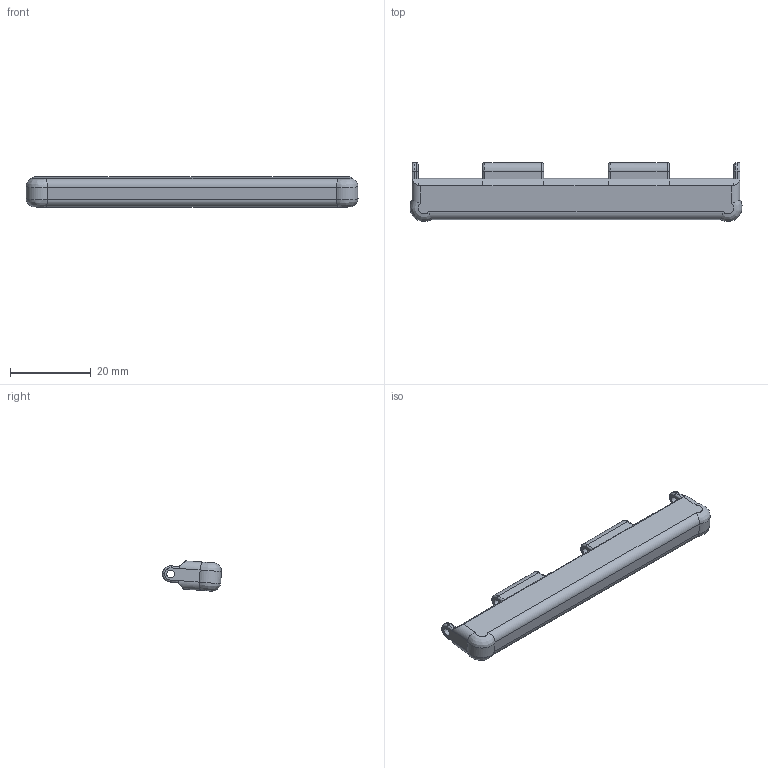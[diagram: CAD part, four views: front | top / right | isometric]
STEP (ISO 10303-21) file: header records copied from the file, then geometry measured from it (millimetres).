
FILE_DESCRIPTION(/* description */ (''),/* implementation_level */ '2;1');
FILE_NAME(/* name */ 'LeftMagneticBack.step',/* time_stamp */ '2026-09-30T10:56:25+13:00',/* author */ (''),/* organization */ (''),/* preprocessor_version */ 'ST-DEVELOPER v20.2',/* originating_system */ 'Autodesk Translation Framework v15.15.0.0',/* authorisation */ '');
FILE_SCHEMA (('AUTOMOTIVE_DESIGN { 1 0 10303 214 3 1 1 }'));
Length unit declared in the file: millimetre
Products named in the file (3): 2026-08-23-14-38-27-662; 2026-09-05-13-34-59-849; 2026-09-08-12-17-05-654
Assembly tree (2 placements, depth 3):
  2026-08-23-14-38-27-662
    2026-09-05-13-34-59-849
      2026-09-08-12-17-05-654
Bounding box: 81.99 x 14.57 x 7.48 mm (x, y, z)
Volume: 4965.8 mm3; surface area: 3844.6 mm2
Topology: 1 solids, 6 shells, 129 faces, 291 edges, 174 vertices
Faces by surface type: plane 65, cylinder 46, bspline 17, torus 1
Full cylindrical faces by diameter (mm): 1.9 x4, 6.2 x5
Entity records: 4260 total; most frequent: CARTESIAN_POINT 1362, ORIENTED_EDGE 582, DIRECTION 573, EDGE_CURVE 291, AXIS2_PLACEMENT_3D 202, VERTEX_POINT 174, LINE 169, VECTOR 169
